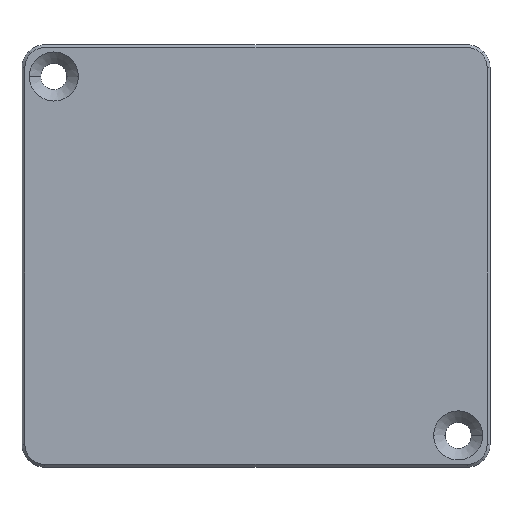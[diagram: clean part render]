
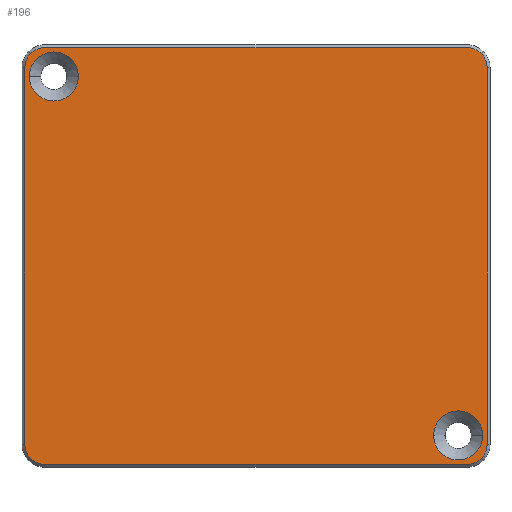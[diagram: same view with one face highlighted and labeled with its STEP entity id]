
A CAD part, top view. The second image highlights one B-rep face of the part: STEP entity #196.
In plain terms, the highlighted planar face has unit normal (0, 0, 1).
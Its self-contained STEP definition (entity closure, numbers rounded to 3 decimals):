
#196=ADVANCED_FACE('0:858',(#391,#392,#393),#394,.T.);
#391=FACE_BOUND('',#599,.T.);
#392=FACE_OUTER_BOUND('',#600,.T.);
#393=FACE_BOUND('',#601,.T.);
#394=PLANE('',#602);
#599=EDGE_LOOP('',(#938,#939));
#600=EDGE_LOOP('',(#940,#941,#942,#943,#944,#945,#946,#947,#948,#949,#950,#951));
#601=EDGE_LOOP('',(#952,#953));
#602=AXIS2_PLACEMENT_3D('',#954,#955,#956);
#938=ORIENTED_EDGE('',*,*,#1288,.F.);
#939=ORIENTED_EDGE('',*,*,#1341,.F.);
#940=ORIENTED_EDGE('',*,*,#1342,.F.);
#941=ORIENTED_EDGE('',*,*,#1343,.F.);
#942=ORIENTED_EDGE('',*,*,#1240,.F.);
#943=ORIENTED_EDGE('',*,*,#1344,.F.);
#944=ORIENTED_EDGE('',*,*,#1345,.F.);
#945=ORIENTED_EDGE('',*,*,#1245,.F.);
#946=ORIENTED_EDGE('',*,*,#1346,.F.);
#947=ORIENTED_EDGE('',*,*,#1347,.F.);
#948=ORIENTED_EDGE('',*,*,#1250,.F.);
#949=ORIENTED_EDGE('',*,*,#1348,.F.);
#950=ORIENTED_EDGE('',*,*,#1349,.F.);
#951=ORIENTED_EDGE('',*,*,#1255,.F.);
#952=ORIENTED_EDGE('',*,*,#1293,.F.);
#953=ORIENTED_EDGE('',*,*,#1339,.F.);
#954=CARTESIAN_POINT('',(0.0,0.0,3.0));
#955=DIRECTION('',(0.0,0.0,1.0));
#956=DIRECTION('',(1.0,0.0,0.0));
#1240=EDGE_CURVE('2:110',#1447,#1450,#1451,.T.);
#1245=EDGE_CURVE('2:98',#1456,#1458,#1459,.T.);
#1250=EDGE_CURVE('2:86',#1464,#1466,#1467,.T.);
#1255=EDGE_CURVE('2:74',#1472,#1475,#1476,.T.);
#1288=EDGE_CURVE('4:31534',#1526,#1522,#1528,.T.);
#1293=EDGE_CURVE('4:31569',#1535,#1531,#1537,.T.);
#1339=EDGE_CURVE('4:31569',#1531,#1535,#1599,.T.);
#1341=EDGE_CURVE('4:31534',#1522,#1526,#1601,.T.);
#1342=EDGE_CURVE('2:74',#1602,#1472,#1603,.T.);
#1343=EDGE_CURVE('2:116',#1450,#1602,#1604,.T.);
#1344=EDGE_CURVE('2:110',#1605,#1447,#1606,.T.);
#1345=EDGE_CURVE('2:104',#1458,#1605,#1607,.T.);
#1346=EDGE_CURVE('2:98',#1608,#1456,#1609,.T.);
#1347=EDGE_CURVE('2:89',#1466,#1608,#1610,.T.);
#1348=EDGE_CURVE('2:86',#1611,#1464,#1612,.T.);
#1349=EDGE_CURVE('2:80',#1475,#1611,#1613,.T.);
#1447=VERTEX_POINT('',#1731);
#1450=VERTEX_POINT('',#1735);
#1451=CIRCLE('',#1736,1.75);
#1456=VERTEX_POINT('',#1742);
#1458=VERTEX_POINT('',#1745);
#1459=CIRCLE('',#1746,1.75);
#1464=VERTEX_POINT('',#1752);
#1466=VERTEX_POINT('',#1755);
#1467=CIRCLE('',#1756,1.75);
#1472=VERTEX_POINT('',#1762);
#1475=VERTEX_POINT('',#1766);
#1476=CIRCLE('',#1767,1.75);
#1522=VERTEX_POINT('',#1826);
#1526=VERTEX_POINT('',#1831);
#1528=CIRCLE('',#1834,2.15);
#1531=VERTEX_POINT('',#1837);
#1535=VERTEX_POINT('',#1842);
#1537=CIRCLE('',#1845,2.15);
#1599=CIRCLE('',#1919,2.15);
#1601=CIRCLE('',#1921,2.15);
#1602=VERTEX_POINT('',#1922);
#1603=CIRCLE('',#1923,1.75);
#1604=LINE('',#1924,#1925);
#1605=VERTEX_POINT('',#1926);
#1606=CIRCLE('',#1927,1.75);
#1607=LINE('',#1928,#1929);
#1608=VERTEX_POINT('',#1930);
#1609=CIRCLE('',#1931,1.75);
#1610=LINE('',#1932,#1933);
#1611=VERTEX_POINT('',#1934);
#1612=CIRCLE('',#1935,1.75);
#1613=LINE('',#1936,#1937);
#1731=CARTESIAN_POINT('',(19.737,17.737,3.0));
#1735=CARTESIAN_POINT('',(20.25,16.5,3.0));
#1736=AXIS2_PLACEMENT_3D('',#2085,#2086,#2087);
#1742=CARTESIAN_POINT('',(-19.737,17.737,3.0));
#1745=CARTESIAN_POINT('',(-18.5,18.25,3.0));
#1746=AXIS2_PLACEMENT_3D('',#2093,#2094,#2095);
#1752=CARTESIAN_POINT('',(-19.737,-17.737,3.0));
#1755=CARTESIAN_POINT('',(-20.25,-16.5,3.0));
#1756=AXIS2_PLACEMENT_3D('',#2101,#2102,#2103);
#1762=CARTESIAN_POINT('',(19.737,-17.737,3.0));
#1766=CARTESIAN_POINT('',(18.5,-18.25,3.0));
#1767=AXIS2_PLACEMENT_3D('',#2109,#2110,#2111);
#1826=CARTESIAN_POINT('',(19.864,-15.723,3.0));
#1831=CARTESIAN_POINT('',(15.564,-15.723,3.0));
#1834=AXIS2_PLACEMENT_3D('',#2157,#2158,#2159);
#1837=CARTESIAN_POINT('',(-15.564,15.723,3.0));
#1842=CARTESIAN_POINT('',(-19.864,15.723,3.0));
#1845=AXIS2_PLACEMENT_3D('',#2165,#2166,#2167);
#1919=AXIS2_PLACEMENT_3D('',#2234,#2235,#2236);
#1921=AXIS2_PLACEMENT_3D('',#2237,#2238,#2239);
#1922=CARTESIAN_POINT('',(20.25,-16.5,3.0));
#1923=AXIS2_PLACEMENT_3D('',#2240,#2241,#2242);
#1924=CARTESIAN_POINT('',(20.25,0.0,3.0));
#1925=VECTOR('',#2243,1.0);
#1926=CARTESIAN_POINT('',(18.5,18.25,3.0));
#1927=AXIS2_PLACEMENT_3D('',#2244,#2245,#2246);
#1928=CARTESIAN_POINT('',(0.0,18.25,3.0));
#1929=VECTOR('',#2247,1.0);
#1930=CARTESIAN_POINT('',(-20.25,16.5,3.0));
#1931=AXIS2_PLACEMENT_3D('',#2248,#2249,#2250);
#1932=CARTESIAN_POINT('',(-20.25,0.0,3.0));
#1933=VECTOR('',#2251,1.0);
#1934=CARTESIAN_POINT('',(-18.5,-18.25,3.0));
#1935=AXIS2_PLACEMENT_3D('',#2252,#2253,#2254);
#1936=CARTESIAN_POINT('',(0.0,-18.25,3.0));
#1937=VECTOR('',#2255,1.0);
#2085=CARTESIAN_POINT('',(18.5,16.5,3.0));
#2086=DIRECTION('',(0.0,0.0,-1.0));
#2087=DIRECTION('',(0.707,0.707,0.0));
#2093=CARTESIAN_POINT('',(-18.5,16.5,3.0));
#2094=DIRECTION('',(-0.0,0.0,-1.0));
#2095=DIRECTION('',(-0.707,0.707,0.0));
#2101=CARTESIAN_POINT('',(-18.5,-16.5,3.0));
#2102=DIRECTION('',(-0.0,0.0,-1.0));
#2103=DIRECTION('',(-0.707,-0.707,0.0));
#2109=CARTESIAN_POINT('',(18.5,-16.5,3.0));
#2110=DIRECTION('',(0.0,-0.0,-1.0));
#2111=DIRECTION('',(0.707,-0.707,0.0));
#2157=CARTESIAN_POINT('',(17.714,-15.723,3.0));
#2158=DIRECTION('',(0.0,0.0,1.0));
#2159=DIRECTION('',(1.0,0.0,0.0));
#2165=CARTESIAN_POINT('',(-17.714,15.723,3.0));
#2166=DIRECTION('',(0.0,0.0,1.0));
#2167=DIRECTION('',(1.0,0.0,0.0));
#2234=CARTESIAN_POINT('',(-17.714,15.723,3.0));
#2235=DIRECTION('',(0.0,0.0,1.0));
#2236=DIRECTION('',(1.0,0.0,0.0));
#2237=CARTESIAN_POINT('',(17.714,-15.723,3.0));
#2238=DIRECTION('',(0.0,0.0,1.0));
#2239=DIRECTION('',(1.0,0.0,0.0));
#2240=CARTESIAN_POINT('',(18.5,-16.5,3.0));
#2241=DIRECTION('',(0.0,-0.0,-1.0));
#2242=DIRECTION('',(0.707,-0.707,0.0));
#2243=DIRECTION('',(0.0,-1.0,0.0));
#2244=CARTESIAN_POINT('',(18.5,16.5,3.0));
#2245=DIRECTION('',(0.0,0.0,-1.0));
#2246=DIRECTION('',(0.707,0.707,0.0));
#2247=DIRECTION('',(1.0,-0.0,0.0));
#2248=CARTESIAN_POINT('',(-18.5,16.5,3.0));
#2249=DIRECTION('',(-0.0,0.0,-1.0));
#2250=DIRECTION('',(-0.707,0.707,0.0));
#2251=DIRECTION('',(0.0,1.0,-0.0));
#2252=CARTESIAN_POINT('',(-18.5,-16.5,3.0));
#2253=DIRECTION('',(-0.0,0.0,-1.0));
#2254=DIRECTION('',(-0.707,-0.707,0.0));
#2255=DIRECTION('',(-1.0,0.0,0.0));
